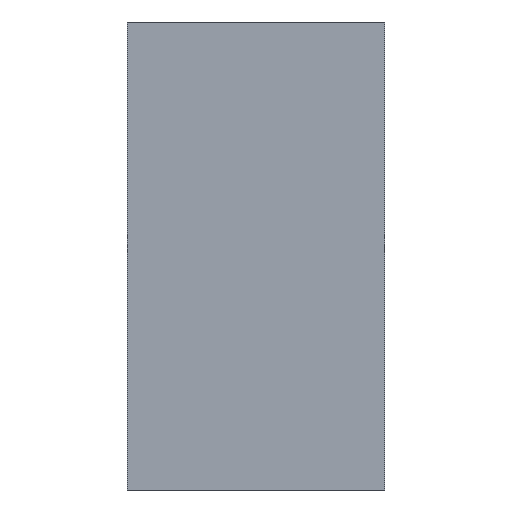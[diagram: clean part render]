
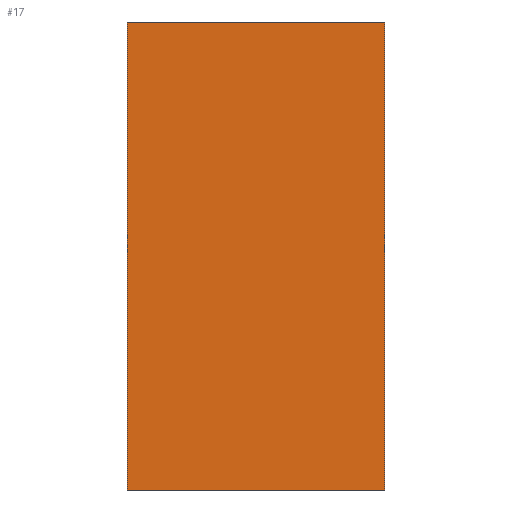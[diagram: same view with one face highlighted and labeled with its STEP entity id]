
A CAD part, left-side view. The second image highlights one B-rep face of the part: STEP entity #17.
In plain terms, the highlighted planar face has unit normal (-1, 0, 0).
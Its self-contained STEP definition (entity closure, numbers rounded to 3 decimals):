
#17 = ADVANCED_FACE('',(#18),#52,.F.);
#18 = FACE_BOUND('',#19,.F.);
#19 = EDGE_LOOP('',(#20,#30,#38,#46));
#20 = ORIENTED_EDGE('',*,*,#21,.F.);
#21 = EDGE_CURVE('',#22,#24,#26,.T.);
#22 = VERTEX_POINT('',#23);
#23 = CARTESIAN_POINT('',(-4.,-22.,0.));
#24 = VERTEX_POINT('',#25);
#25 = CARTESIAN_POINT('',(-4.,-22.,80.));
#26 = LINE('',#27,#28);
#27 = CARTESIAN_POINT('',(-4.,-22.,0.));
#28 = VECTOR('',#29,1.);
#29 = DIRECTION('',(0.,0.,1.));
#30 = ORIENTED_EDGE('',*,*,#31,.T.);
#31 = EDGE_CURVE('',#22,#32,#34,.T.);
#32 = VERTEX_POINT('',#33);
#33 = CARTESIAN_POINT('',(-4.,22.,0.));
#34 = LINE('',#35,#36);
#35 = CARTESIAN_POINT('',(-4.,-22.,0.));
#36 = VECTOR('',#37,1.);
#37 = DIRECTION('',(-0.,1.,0.));
#38 = ORIENTED_EDGE('',*,*,#39,.T.);
#39 = EDGE_CURVE('',#32,#40,#42,.T.);
#40 = VERTEX_POINT('',#41);
#41 = CARTESIAN_POINT('',(-4.,22.,80.));
#42 = LINE('',#43,#44);
#43 = CARTESIAN_POINT('',(-4.,22.,0.));
#44 = VECTOR('',#45,1.);
#45 = DIRECTION('',(0.,0.,1.));
#46 = ORIENTED_EDGE('',*,*,#47,.F.);
#47 = EDGE_CURVE('',#24,#40,#48,.T.);
#48 = LINE('',#49,#50);
#49 = CARTESIAN_POINT('',(-4.,-22.,80.));
#50 = VECTOR('',#51,1.);
#51 = DIRECTION('',(-0.,1.,0.));
#52 = PLANE('',#53);
#53 = AXIS2_PLACEMENT_3D('',#54,#55,#56);
#54 = CARTESIAN_POINT('',(-4.,-22.,0.));
#55 = DIRECTION('',(1.,0.,-0.));
#56 = DIRECTION('',(0.,0.,1.));
